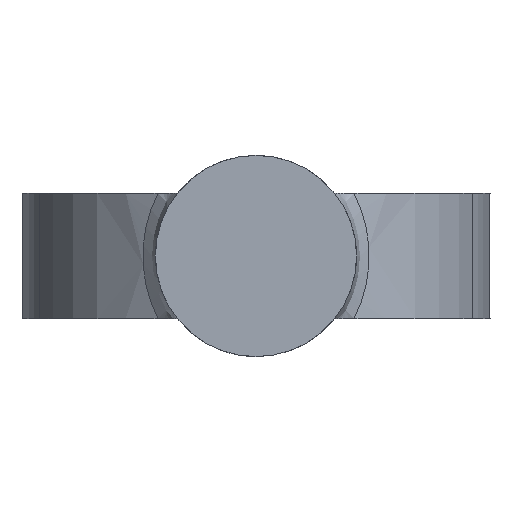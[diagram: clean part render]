
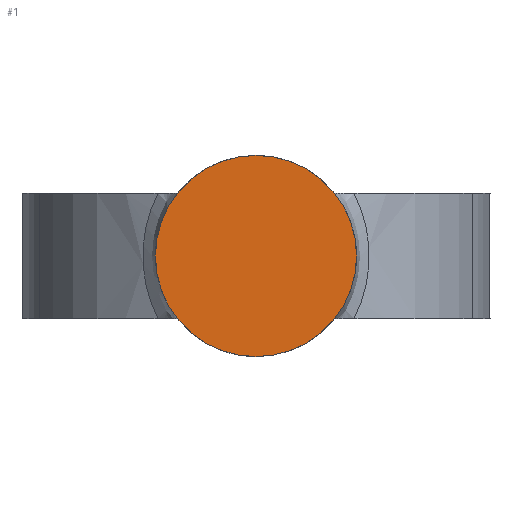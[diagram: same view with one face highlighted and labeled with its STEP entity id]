
A CAD part, front view. The second image highlights one B-rep face of the part: STEP entity #1.
In plain terms, the highlighted planar face has unit normal (0, -1, 0).
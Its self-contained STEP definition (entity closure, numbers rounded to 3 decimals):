
#1 = ADVANCED_FACE ( 'NONE', ( #904 ), #994, .F. ) ;
#45 = VERTEX_POINT ( 'NONE', #690 ) ;
#54 = EDGE_CURVE ( 'NONE', #365, #45, #1150, .T. ) ;
#342 = CIRCLE ( 'NONE', #536, 8. ) ;
#365 = VERTEX_POINT ( 'NONE', #452 ) ;
#371 = DIRECTION ( 'NONE',  ( 0., 1., 0. ) ) ;
#377 = EDGE_LOOP ( 'NONE', ( #1013, #879 ) ) ;
#392 = DIRECTION ( 'NONE',  ( -1., 0., 0. ) ) ;
#452 = CARTESIAN_POINT ( 'NONE',  ( -8., -7.856, 0. ) ) ;
#536 = AXIS2_PLACEMENT_3D ( 'NONE', #1014, #707, #912 ) ;
#658 = AXIS2_PLACEMENT_3D ( 'NONE', #1096, #1079, #674 ) ;
#674 = DIRECTION ( 'NONE',  ( -1., 0., 0. ) ) ;
#690 = CARTESIAN_POINT ( 'NONE',  ( 8., -7.856, 0. ) ) ;
#707 = DIRECTION ( 'NONE',  ( 0., 1., 0. ) ) ;
#855 = AXIS2_PLACEMENT_3D ( 'NONE', #1278, #371, #392 ) ;
#879 = ORIENTED_EDGE ( 'NONE', *, *, #1211, .F. ) ;
#904 = FACE_OUTER_BOUND ( 'NONE', #377, .T. ) ;
#912 = DIRECTION ( 'NONE',  ( -1., 0., 0. ) ) ;
#994 = PLANE ( 'NONE',  #855 ) ;
#1013 = ORIENTED_EDGE ( 'NONE', *, *, #54, .F. ) ;
#1014 = CARTESIAN_POINT ( 'NONE',  ( 0., -7.856, 0. ) ) ;
#1079 = DIRECTION ( 'NONE',  ( 0., 1., 0. ) ) ;
#1096 = CARTESIAN_POINT ( 'NONE',  ( 0., -7.856, 0. ) ) ;
#1150 = CIRCLE ( 'NONE', #658, 8. ) ;
#1211 = EDGE_CURVE ( 'NONE', #45, #365, #342, .T. ) ;
#1278 = CARTESIAN_POINT ( 'NONE',  ( 0., -7.856, 0. ) ) ;
